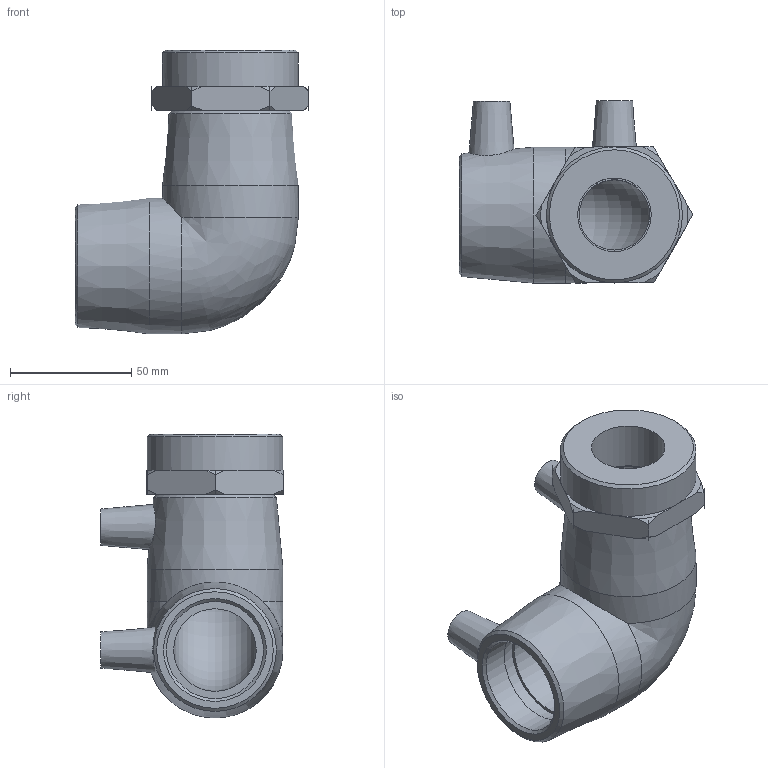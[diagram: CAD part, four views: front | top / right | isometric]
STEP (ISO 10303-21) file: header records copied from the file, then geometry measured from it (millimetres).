
FILE_DESCRIPTION(/* description */ ('PLASSON 90° ELBOW FEMALE TRANSITION 40-1'''''),/* implementation_level */ '2;1');
FILE_NAME(/* name */ 'C:\Dropbox\KIMPROJECTS-Inventor\99-16-3568-Processing\ElectroFusion Fittings\02.02.20\493504\493504040010.ipt.stp',/* time_stamp */ '2020-02-02T12:34:27+02:00',/* author */ ('KIM'),/* organization */ (''),/* preprocessor_version */ 'ST-DEVELOPER v15.6',/* originating_system */ 'Autodesk Inventor 2015',/* authorisation */ '');
FILE_SCHEMA (('AUTOMOTIVE_DESIGN { 1 0 10303 214 3 1 1 }'));
Length unit declared in the file: millimetre
Products named in the file (1): 493504040010
Bounding box: 96.33 x 75.08 x 117 mm (x, y, z)
Volume: 219530.6 mm3; surface area: 50460.8 mm2
Topology: 1 solids, 2 shells, 76 faces, 206 edges, 141 vertices
Faces by surface type: plane 27, cylinder 25, cone 22, bspline 1, torus 1
Full cylindrical faces by diameter (mm): 4 x2, 10 x2, 29 x1, 30.291 x1, 40 x4, 56 x3
Entity records: 2375 total; most frequent: CARTESIAN_POINT 512, DIRECTION 384, ORIENTED_EDGE 332, AXIS2_PLACEMENT_3D 168, EDGE_CURVE 166, VERTEX_POINT 129, EDGE_LOOP 115, CIRCLE 91
